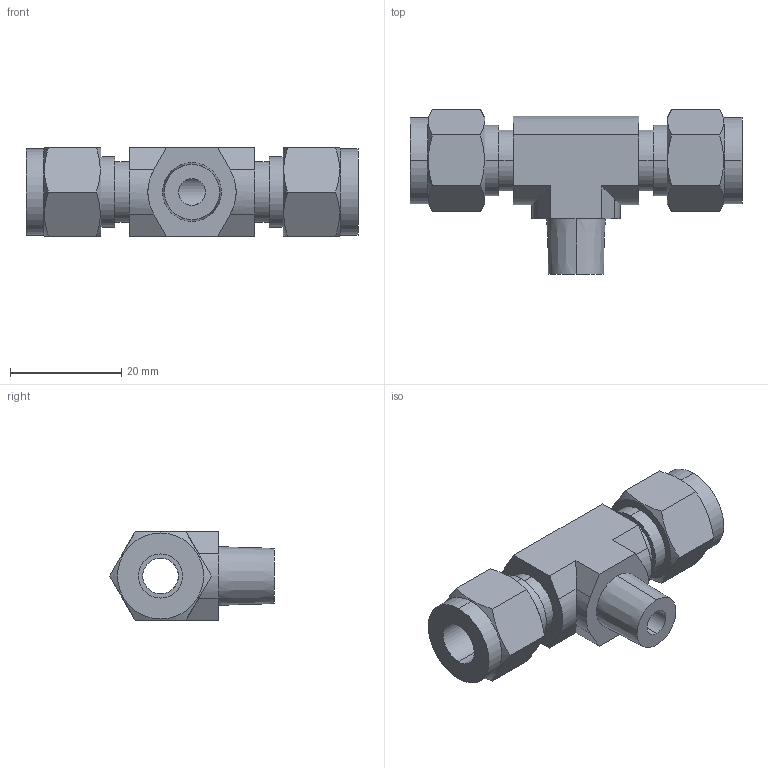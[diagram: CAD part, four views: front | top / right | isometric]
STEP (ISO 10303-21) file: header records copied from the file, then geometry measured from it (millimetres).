
FILE_DESCRIPTION (( 'STEP AP203' ), '1' );
FILE_NAME ('DTN 05-02 SS.STEP', '2009-09-08T10:09:26', ( 'Your User Name' ), ( 'Your Company Name' ), 'SwSTEP 2.0', 'SolidWorks 2008', '' );
FILE_SCHEMA (( 'CONFIG_CONTROL_DESIGN' ));
Length unit declared in the file: millimetre
Products named in the file (1): DTN 05-02 SS
Bounding box: 59.8 x 29.67 x 15.9 mm (x, y, z)
Volume: 10399.9 mm3; surface area: 5951.7 mm2
Topology: 1 solids, 1 shells, 71 faces, 172 edges, 112 vertices
Faces by surface type: plane 36, cylinder 25, cone 10
Entity records: 2409 total; most frequent: CARTESIAN_POINT 680, ORIENTED_EDGE 344, DIRECTION 332, EDGE_CURVE 172, AXIS2_PLACEMENT_3D 124, VERTEX_POINT 112, EDGE_LOOP 84, VECTOR 84
